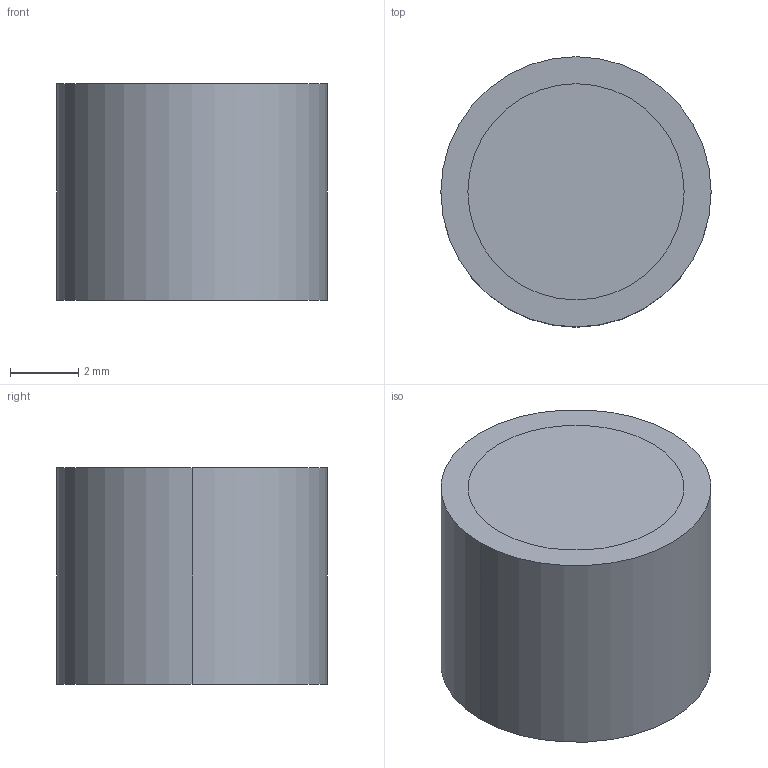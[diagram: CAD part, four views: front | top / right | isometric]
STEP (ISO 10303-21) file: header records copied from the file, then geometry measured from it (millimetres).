
FILE_DESCRIPTION (( 'STEP AP203' ), '1' );
FILE_NAME ('RBS3125.STEP', '2018-08-02T14:04:41', ( '' ), ( '' ), 'SwSTEP 2.0', 'SolidWorks 2015', '' );
FILE_SCHEMA (( 'CONFIG_CONTROL_DESIGN' ));
Length unit declared in the file: inch
Products named in the file (1): RBS3125
Bounding box: 7.94 x 7.94 x 6.35 mm (x, y, z)
Volume: 314.2 mm3; surface area: 510.7 mm2
Topology: 2 solids, 2 shells, 10 faces, 18 edges, 12 vertices
Faces by surface type: cylinder 6, plane 4
Entity records: 335 total; most frequent: DIRECTION 52, CARTESIAN_POINT 41, ORIENTED_EDGE 36, AXIS2_PLACEMENT_3D 23, EDGE_CURVE 18, VERTEX_POINT 12, EDGE_LOOP 12, CIRCLE 12
